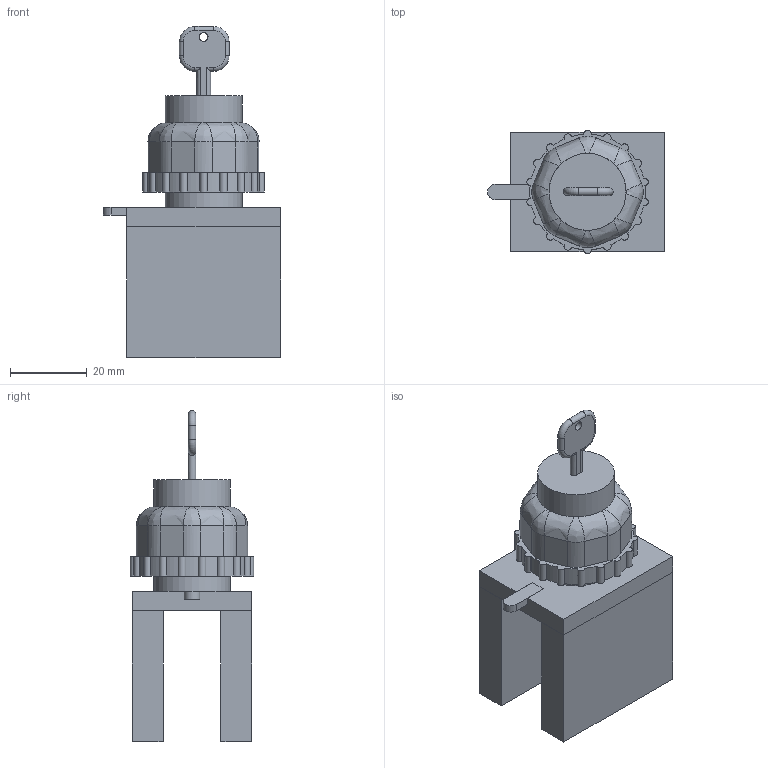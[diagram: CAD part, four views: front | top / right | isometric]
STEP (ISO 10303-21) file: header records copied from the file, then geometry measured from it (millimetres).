
FILE_DESCRIPTION(/* description */ (''),/* implementation_level */ '2;1');
FILE_NAME(/* name */ 'D:\CHINT3\NP8-Y.stp',/* time_stamp */ '2017-12-10T21:03:19+03:00',/* author */ ('RSagdiev'),/* organization */ (''),/* preprocessor_version */ 'ST-DEVELOPER v16.5',/* originating_system */ 'Autodesk Inventor 2017',/* authorisation */ '');
FILE_SCHEMA (('AUTOMOTIVE_DESIGN { 1 0 10303 214 3 1 1 }'));
Length unit declared in the file: millimetre
Products named in the file (1): NP8-Y
Bounding box: 46 x 32 x 86 mm (x, y, z)
Volume: 43161.5 mm3; surface area: 19407.1 mm2
Topology: 10 solids, 10 shells, 161 faces, 409 edges, 267 vertices
Faces by surface type: plane 83, cylinder 57, bspline 16, torus 4, cone 1
Full cylindrical faces by diameter (mm): 2.316 x1, 20 x4
Entity records: 5265 total; most frequent: CARTESIAN_POINT 1278, DIRECTION 822, ORIENTED_EDGE 804, EDGE_CURVE 402, AXIS2_PLACEMENT_3D 290, VERTEX_POINT 266, LINE 242, VECTOR 242
